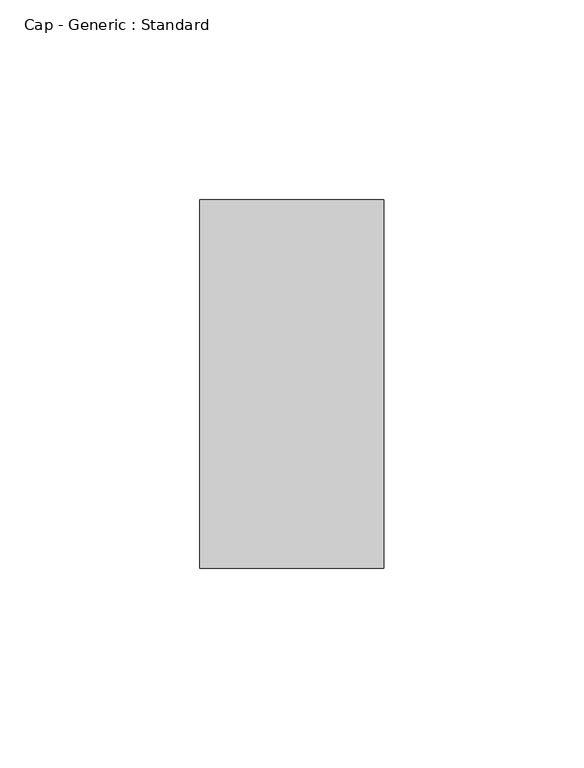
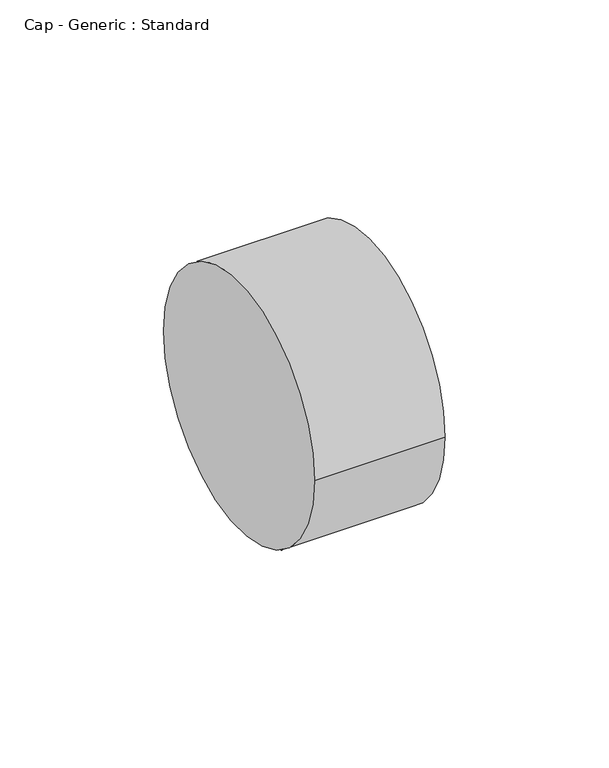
"""IFC4 building model written with IfcOpenShell, lengths in millimetres: pipe fitting geometry, Cap - Generic : Standard."""

from ifc_helpers import new_model, si_unit, point, frame, origin, origin_2d, place, context, project, spatial, circle_curve, trimmed, segment, composite_curve, outline, extrude, source, transform, mapped, element, save


def cap_generic_standard_4bc73fea(model_context):
    return source(origin(), model_context, "Body", "SweptSolid", [
        extrude(outline(composite_curve([segment(trimmed(circle_curve(origin_2d(), 46.0375), [point((-46.0375, 0.0))], [point((46.0375, 0.0))], False, "CARTESIAN"), True, "CONTINUOUS"), segment(trimmed(circle_curve(origin_2d(), 46.0375), [point((46.0375, 0.0))], [point((-46.0375, 0.0))], False, "CARTESIAN"), True, "CONTINUOUS")], self_intersect=False)), frame((0.0, 0.0, 0.0), z_axis=(1.0, 0.0, 0.0), x_axis=(0.0, 1.0, 0.0)), (0.0, 0.0, 1.0), 46.0375),
    ])


if __name__ == "__main__":
    model = new_model("IFC4")
    model_context = context("Model", 3, world=origin())
    ifc_project = project(units=[si_unit("LENGTHUNIT", "METRE", prefix="MILLI")], contexts=[model_context])
    site = spatial("IfcSite", under=ifc_project)
    building = spatial("IfcBuilding", under=site)
    placement = place(None, origin())
    cap_generic_standard_shape = cap_generic_standard_4bc73fea(model_context)
    element("IfcPipeFitting", 1, ObjectType="Cap - Generic : Standard", at=placement, inside=building, context=model_context, shape_type="MappedRepresentation", body=[
        mapped(cap_generic_standard_shape, transform((0.0, 0.0, 0.0), x_axis=(1.0, 0.0, 0.0), y_axis=(0.0, 1.0, 0.0), z_axis=(0.0, 0.0, 1.0))),
    ])
    save(model, "model.ifc")
